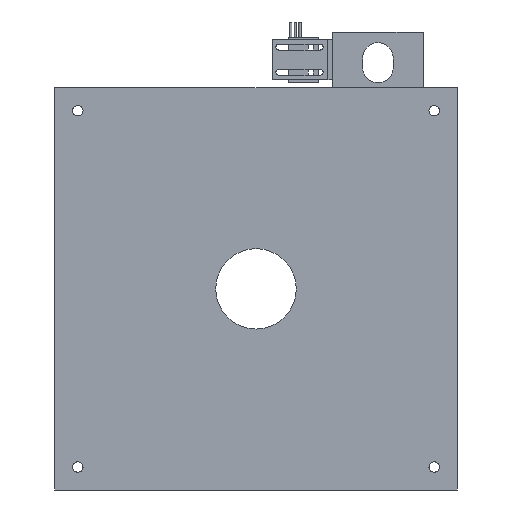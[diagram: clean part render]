
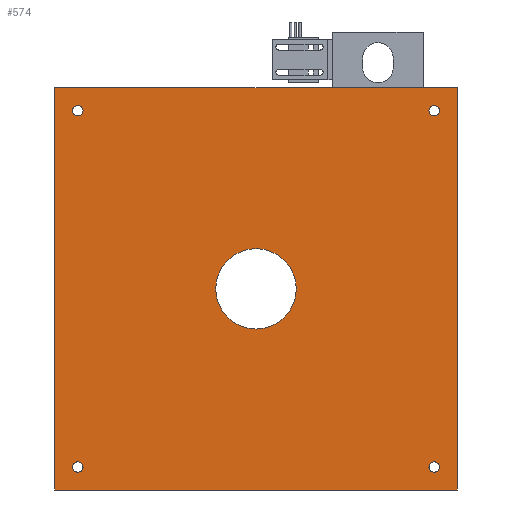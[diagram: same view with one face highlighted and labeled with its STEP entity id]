
A CAD part, front view. The second image highlights one B-rep face of the part: STEP entity #574.
In plain terms, the highlighted planar face has unit normal (0, -1, 0).
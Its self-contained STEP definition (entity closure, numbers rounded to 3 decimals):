
#93=CARTESIAN_POINT('',(-112.5,-56.388,-112.5));
#94=DIRECTION('',(0.,-1.,0.));
#95=DIRECTION('',(-1.,0.,0.));
#96=AXIS2_PLACEMENT_3D('',#93,#94,#95);
#98=CARTESIAN_POINT('',(-112.5,-56.388,-112.5));
#99=DIRECTION('',(0.,-1.,0.));
#100=DIRECTION('',(1.,0.,0.));
#101=AXIS2_PLACEMENT_3D('',#98,#99,#100);
#103=CARTESIAN_POINT('',(112.5,-56.388,-112.5));
#104=DIRECTION('',(0.,-1.,0.));
#105=DIRECTION('',(-1.,0.,0.));
#106=AXIS2_PLACEMENT_3D('',#103,#104,#105);
#108=CARTESIAN_POINT('',(112.5,-56.388,-112.5));
#109=DIRECTION('',(0.,-1.,0.));
#110=DIRECTION('',(1.,0.,0.));
#111=AXIS2_PLACEMENT_3D('',#108,#109,#110);
#113=CARTESIAN_POINT('',(-112.5,-56.388,112.5));
#114=DIRECTION('',(0.,-1.,0.));
#115=DIRECTION('',(-1.,0.,0.));
#116=AXIS2_PLACEMENT_3D('',#113,#114,#115);
#118=CARTESIAN_POINT('',(-112.5,-56.388,112.5));
#119=DIRECTION('',(0.,-1.,0.));
#120=DIRECTION('',(1.,0.,0.));
#121=AXIS2_PLACEMENT_3D('',#118,#119,#120);
#123=DIRECTION('',(0.,0.,-1.));
#124=VECTOR('',#123,254.);
#125=CARTESIAN_POINT('',(-127.,-56.388,127.));
#126=LINE('',#125,#124);
#127=DIRECTION('',(-1.,0.,0.));
#128=VECTOR('',#127,254.);
#129=CARTESIAN_POINT('',(127.,-56.388,127.));
#130=LINE('',#129,#128);
#131=DIRECTION('',(0.,0.,1.));
#132=VECTOR('',#131,254.);
#133=CARTESIAN_POINT('',(127.,-56.388,-127.));
#134=LINE('',#133,#132);
#135=DIRECTION('',(1.,0.,0.));
#136=VECTOR('',#135,254.);
#137=CARTESIAN_POINT('',(-127.,-56.388,-127.));
#138=LINE('',#137,#136);
#139=CARTESIAN_POINT('',(112.5,-56.388,112.5));
#140=DIRECTION('',(0.,-1.,0.));
#141=DIRECTION('',(-1.,0.,0.));
#142=AXIS2_PLACEMENT_3D('',#139,#140,#141);
#144=CARTESIAN_POINT('',(112.5,-56.388,112.5));
#145=DIRECTION('',(0.,-1.,0.));
#146=DIRECTION('',(1.,0.,0.));
#147=AXIS2_PLACEMENT_3D('',#144,#145,#146);
#149=CARTESIAN_POINT('',(0.,-56.388,0.));
#150=DIRECTION('',(0.,-1.,0.));
#151=DIRECTION('',(1.,0.,0.));
#152=AXIS2_PLACEMENT_3D('',#149,#150,#151);
#154=CARTESIAN_POINT('',(0.,-56.388,0.));
#155=DIRECTION('',(0.,-1.,0.));
#156=DIRECTION('',(-1.,0.,0.));
#157=AXIS2_PLACEMENT_3D('',#154,#155,#156);
#337=CARTESIAN_POINT('',(-127.,-56.388,127.));
#338=CARTESIAN_POINT('',(-127.,-56.388,-127.));
#339=VERTEX_POINT('',#337);
#340=VERTEX_POINT('',#338);
#341=CARTESIAN_POINT('',(127.,-56.388,-127.));
#342=VERTEX_POINT('',#341);
#343=CARTESIAN_POINT('',(127.,-56.388,127.));
#344=VERTEX_POINT('',#343);
#345=CARTESIAN_POINT('',(109.2,-56.388,112.5));
#346=CARTESIAN_POINT('',(115.8,-56.388,112.5));
#347=VERTEX_POINT('',#345);
#348=VERTEX_POINT('',#346);
#353=CARTESIAN_POINT('',(25.4,-56.388,0.));
#354=CARTESIAN_POINT('',(-25.4,-56.388,0.));
#355=VERTEX_POINT('',#353);
#356=VERTEX_POINT('',#354);
#365=CARTESIAN_POINT('',(-115.8,-56.388,112.5));
#366=CARTESIAN_POINT('',(-109.2,-56.388,112.5));
#367=VERTEX_POINT('',#365);
#368=VERTEX_POINT('',#366);
#369=CARTESIAN_POINT('',(109.2,-56.388,-112.5));
#370=CARTESIAN_POINT('',(115.8,-56.388,-112.5));
#371=VERTEX_POINT('',#369);
#372=VERTEX_POINT('',#370);
#373=CARTESIAN_POINT('',(-115.8,-56.388,-112.5));
#374=CARTESIAN_POINT('',(-109.2,-56.388,-112.5));
#375=VERTEX_POINT('',#373);
#376=VERTEX_POINT('',#374);
#533=CARTESIAN_POINT('',(0.,-56.388,0.));
#534=DIRECTION('',(0.,-1.,0.));
#535=DIRECTION('',(0.,0.,-1.));
#536=AXIS2_PLACEMENT_3D('',#533,#534,#535);
#537=PLANE('',#536);
#538=ORIENTED_EDGE('',*,*,#479,.F.);
#539=ORIENTED_EDGE('',*,*,#494,.F.);
#540=ORIENTED_EDGE('',*,*,#514,.F.);
#541=ORIENTED_EDGE('',*,*,#527,.F.);
#542=EDGE_LOOP('',(#538,#539,#540,#541));
#543=FACE_OUTER_BOUND('',#542,.F.);
#545=ORIENTED_EDGE('',*,*,#544,.T.);
#547=ORIENTED_EDGE('',*,*,#546,.T.);
#548=EDGE_LOOP('',(#545,#547));
#549=FACE_BOUND('',#548,.F.);
#551=ORIENTED_EDGE('',*,*,#550,.T.);
#553=ORIENTED_EDGE('',*,*,#552,.T.);
#554=EDGE_LOOP('',(#551,#553));
#555=FACE_BOUND('',#554,.F.);
#557=ORIENTED_EDGE('',*,*,#556,.T.);
#559=ORIENTED_EDGE('',*,*,#558,.T.);
#560=EDGE_LOOP('',(#557,#559));
#561=FACE_BOUND('',#560,.F.);
#563=ORIENTED_EDGE('',*,*,#562,.T.);
#565=ORIENTED_EDGE('',*,*,#564,.T.);
#566=EDGE_LOOP('',(#563,#565));
#567=FACE_BOUND('',#566,.F.);
#569=ORIENTED_EDGE('',*,*,#568,.T.);
#571=ORIENTED_EDGE('',*,*,#570,.T.);
#572=EDGE_LOOP('',(#569,#571));
#573=FACE_BOUND('',#572,.F.);
#574=ADVANCED_FACE('',(#543,#549,#555,#561,#567,#573),#537,.T.);
#97=CIRCLE('',#96,3.3);
#102=CIRCLE('',#101,3.3);
#107=CIRCLE('',#106,3.3);
#112=CIRCLE('',#111,3.3);
#117=CIRCLE('',#116,3.3);
#122=CIRCLE('',#121,3.3);
#143=CIRCLE('',#142,3.3);
#148=CIRCLE('',#147,3.3);
#153=CIRCLE('',#152,25.4);
#158=CIRCLE('',#157,25.4);
#479=EDGE_CURVE('',#339,#340,#126,.T.);
#494=EDGE_CURVE('',#344,#339,#130,.T.);
#514=EDGE_CURVE('',#342,#344,#134,.T.);
#527=EDGE_CURVE('',#340,#342,#138,.T.);
#544=EDGE_CURVE('',#375,#376,#97,.T.);
#546=EDGE_CURVE('',#376,#375,#102,.T.);
#550=EDGE_CURVE('',#371,#372,#107,.T.);
#552=EDGE_CURVE('',#372,#371,#112,.T.);
#556=EDGE_CURVE('',#367,#368,#117,.T.);
#558=EDGE_CURVE('',#368,#367,#122,.T.);
#562=EDGE_CURVE('',#347,#348,#143,.T.);
#564=EDGE_CURVE('',#348,#347,#148,.T.);
#568=EDGE_CURVE('',#355,#356,#153,.T.);
#570=EDGE_CURVE('',#356,#355,#158,.T.);
